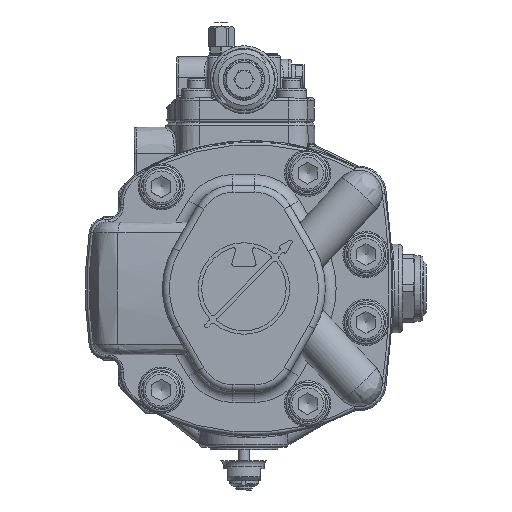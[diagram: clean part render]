
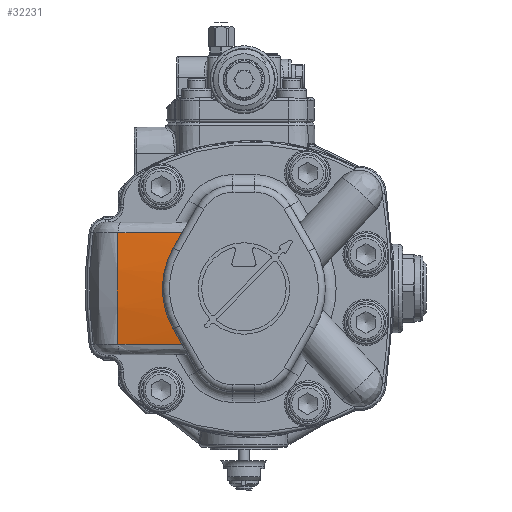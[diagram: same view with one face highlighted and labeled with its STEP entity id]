
A CAD part, front view. The second image highlights one B-rep face of the part: STEP entity #32231.
In plain terms, the highlighted free-form (B-spline) face has degree [1, 2] with [2, 3] control points.
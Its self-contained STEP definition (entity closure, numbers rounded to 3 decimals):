
#21=(
BOUNDED_SURFACE()
B_SPLINE_SURFACE(1,2,((#54871,#54872,#54873),(#54874,#54875,#54876)),
 .UNSPECIFIED.,.F.,.F.,.F.)
B_SPLINE_SURFACE_WITH_KNOTS((2,2),(3,3),(-0.183,-0.022),
(-1.709,-1.432),.UNSPECIFIED.)
GEOMETRIC_REPRESENTATION_ITEM()
RATIONAL_B_SPLINE_SURFACE(((1.,0.99,1.),(1.,0.99,
1.)))
REPRESENTATION_ITEM('')
SURFACE()
);
#85=ELLIPSE('',#34895,346.023,294.047);
#88=ELLIPSE('',#34901,346.023,294.047);
#2224=LINE('',#54863,#3790);
#2225=LINE('',#54870,#3791);
#3790=VECTOR('',#40465,10.);
#3791=VECTOR('',#40466,10.);
#5970=FACE_OUTER_BOUND('',#7954,.T.);
#7954=EDGE_LOOP('',(#23460,#23461,#23462,#23463,#23464,#23465));
#9535=B_SPLINE_CURVE_WITH_KNOTS('',3,(#54879,#54880,#54881,#54882,#54883,
#54884,#54885,#54886,#54887,#54888,#54889,#54890,#54891,#54892),
 .UNSPECIFIED.,.F.,.F.,(4,2,2,2,2,2,4),(6.047,6.785,
7.918,9.05,10.183,11.315,12.054),
 .UNSPECIFIED.);
#10942=CIRCLE('',#34891,299.);
#13323=VERTEX_POINT('',#54825);
#13324=VERTEX_POINT('',#54827);
#13328=VERTEX_POINT('',#54847);
#13329=VERTEX_POINT('',#54849);
#13330=VERTEX_POINT('',#54860);
#13331=VERTEX_POINT('',#54877);
#16922=EDGE_CURVE('',#13324,#13323,#10942,.T.);
#16929=EDGE_CURVE('',#13328,#13329,#85,.T.);
#16934=EDGE_CURVE('',#13324,#13330,#2224,.T.);
#16935=EDGE_CURVE('',#13323,#13329,#2225,.T.);
#16936=EDGE_CURVE('',#13330,#13331,#88,.T.);
#16937=EDGE_CURVE('',#13331,#13328,#9535,.T.);
#23460=ORIENTED_EDGE('',*,*,#16936,.F.);
#23461=ORIENTED_EDGE('',*,*,#16934,.F.);
#23462=ORIENTED_EDGE('',*,*,#16922,.T.);
#23463=ORIENTED_EDGE('',*,*,#16935,.T.);
#23464=ORIENTED_EDGE('',*,*,#16929,.F.);
#23465=ORIENTED_EDGE('',*,*,#16937,.F.);
#32231=ADVANCED_FACE('',(#5970),#21,.F.);
#34891=AXIS2_PLACEMENT_3D('',#54828,#40441,#40442);
#34895=AXIS2_PLACEMENT_3D('',#54850,#40453,#40454);
#34901=AXIS2_PLACEMENT_3D('',#54878,#40467,#40468);
#40441=DIRECTION('center_axis',(0.968,-0.251,0.));
#40442=DIRECTION('ref_axis',(-0.248,-0.959,0.138));
#40453=DIRECTION('center_axis',(0.866,0.,0.5));
#40454=DIRECTION('ref_axis',(0.496,-0.126,-0.859));
#40465=DIRECTION('',(0.998,-0.07,0.));
#40466=DIRECTION('',(0.998,-0.07,0.));
#40467=DIRECTION('center_axis',(0.866,0.,-0.5));
#40468=DIRECTION('ref_axis',(-0.496,0.126,-0.859));
#54825=CARTESIAN_POINT('',(-89.312,-138.114,-40.241));
#54827=CARTESIAN_POINT('',(-89.312,-138.114,42.241));
#54828=CARTESIAN_POINT('Origin',(-15.109,148.58,1.));
#54847=CARTESIAN_POINT('',(-48.401,-142.305,-29.));
#54849=CARTESIAN_POINT('',(-41.91,-141.429,-40.241));
#54850=CARTESIAN_POINT('Origin',(-65.721,152.12,1.));
#54860=CARTESIAN_POINT('',(-41.91,-141.429,42.241));
#54863=CARTESIAN_POINT('',(-89.312,-138.114,42.241));
#54870=CARTESIAN_POINT('',(-89.312,-138.114,-40.241));
#54871=CARTESIAN_POINT('Ctrl Pts',(-90.004,-138.066,
42.241));
#54872=CARTESIAN_POINT('Ctrl Pts',(-90.398,-143.699,
1.));
#54873=CARTESIAN_POINT('Ctrl Pts',(-90.004,-138.066,
-40.241));
#54874=CARTESIAN_POINT('Ctrl Pts',(-41.91,-141.429,
42.241));
#54875=CARTESIAN_POINT('Ctrl Pts',(-42.304,-147.062,
1.));
#54876=CARTESIAN_POINT('Ctrl Pts',(-41.91,-141.429,
-40.241));
#54877=CARTESIAN_POINT('',(-48.401,-142.305,31.));
#54878=CARTESIAN_POINT('Origin',(-65.721,152.12,1.));
#54879=CARTESIAN_POINT('Ctrl Pts',(-48.401,-142.305,
31.));
#54880=CARTESIAN_POINT('Ctrl Pts',(-49.699,-142.438,
28.751));
#54881=CARTESIAN_POINT('Ctrl Pts',(-50.858,-142.564,
26.405));
#54882=CARTESIAN_POINT('Ctrl Pts',(-53.393,-142.851,
20.295));
#54883=CARTESIAN_POINT('Ctrl Pts',(-54.554,-142.994,
16.438));
#54884=CARTESIAN_POINT('Ctrl Pts',(-56.077,-143.183,
8.677));
#54885=CARTESIAN_POINT('Ctrl Pts',(-56.439,-143.23,
4.775));
#54886=CARTESIAN_POINT('Ctrl Pts',(-56.439,-143.23,
-2.775));
#54887=CARTESIAN_POINT('Ctrl Pts',(-56.077,-143.183,
-6.677));
#54888=CARTESIAN_POINT('Ctrl Pts',(-54.554,-142.994,
-14.438));
#54889=CARTESIAN_POINT('Ctrl Pts',(-53.393,-142.851,
-18.295));
#54890=CARTESIAN_POINT('Ctrl Pts',(-50.858,-142.564,
-24.405));
#54891=CARTESIAN_POINT('Ctrl Pts',(-49.699,-142.438,
-26.751));
#54892=CARTESIAN_POINT('Ctrl Pts',(-48.401,-142.305,
-29.));
